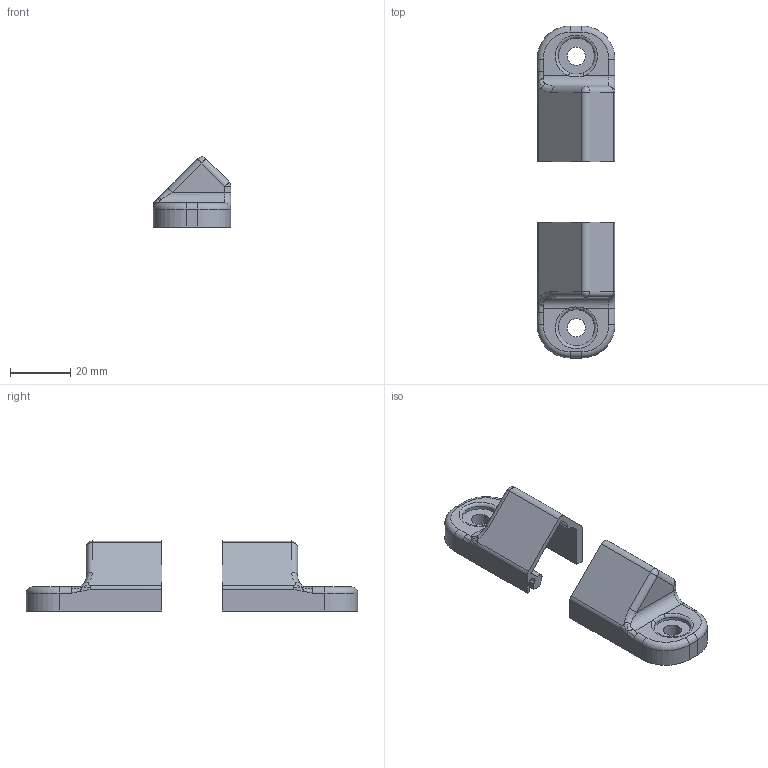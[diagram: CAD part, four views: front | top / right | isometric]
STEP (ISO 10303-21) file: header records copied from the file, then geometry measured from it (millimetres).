
FILE_DESCRIPTION(/* description */ (''),/* implementation_level */ '2;1');
FILE_NAME(/* name */ '/Users/lars/Downloads/Solis 45 Grad halterung R & L.step',/* time_stamp */ '2022-01-15T15:04:07+01:00',/* author */ (''),/* organization */ (''),/* preprocessor_version */ 'ST-DEVELOPER v18.1',/* originating_system */ 'Autodesk Translation Framework v10.13.0.1454',/* authorisation */ '');
FILE_SCHEMA (('AUTOMOTIVE_DESIGN { 1 0 10303 214 3 1 1 }'));
Length unit declared in the file: millimetre
Products named in the file (1): Manuel45
Bounding box: 25.8 x 110 x 23.21 mm (x, y, z)
Volume: 11521.9 mm3; surface area: 10889.6 mm2
Topology: 2 solids, 2 shells, 162 faces, 420 edges, 258 vertices
Faces by surface type: plane 74, cylinder 54, bspline 16, torus 14, sphere 4
Full cylindrical faces by diameter (mm): 6 x2, 12 x2, 16 x2
Entity records: 7821 total; most frequent: CARTESIAN_POINT 3893, ORIENTED_EDGE 824, DIRECTION 818, EDGE_CURVE 412, AXIS2_PLACEMENT_3D 297, VERTEX_POINT 254, LINE 224, VECTOR 224
